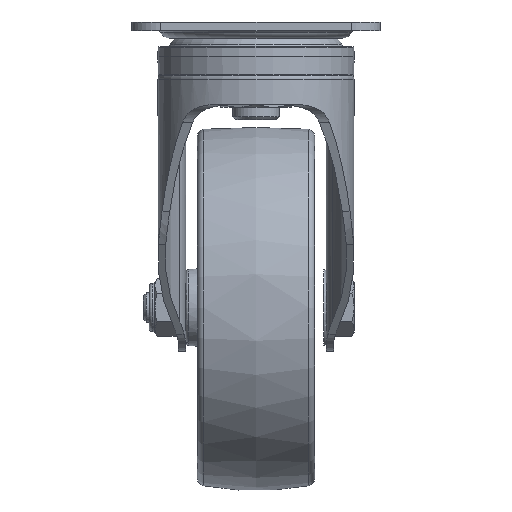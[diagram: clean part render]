
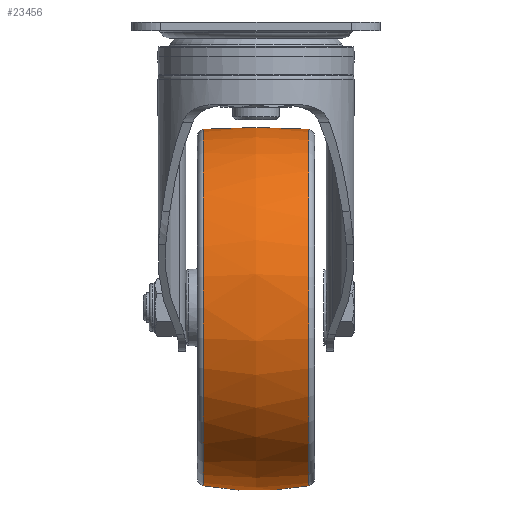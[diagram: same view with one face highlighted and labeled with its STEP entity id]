
A CAD part, left-side view. The second image highlights one B-rep face of the part: STEP entity #23456.
In plain terms, the highlighted free-form (B-spline) face has degree [2, 2] with [3, 9] control points.
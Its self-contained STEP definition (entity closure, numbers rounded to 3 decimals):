
#15=(
BOUNDED_SURFACE()
B_SPLINE_SURFACE(2,2,((#35715,#35716,#35717,#35718,#35719,#35720,#35721,
#35722,#35723),(#35724,#35725,#35726,#35727,#35728,#35729,#35730,#35731,
#35732),(#35733,#35734,#35735,#35736,#35737,#35738,#35739,#35740,#35741)),
 .UNSPECIFIED.,.F.,.T.,.F.)
B_SPLINE_SURFACE_WITH_KNOTS((3,3),(3,2,2,2,3),(-0.18,0.18),
(-3.142,-1.571,0.,1.571,3.142),
 .UNSPECIFIED.)
GEOMETRIC_REPRESENTATION_ITEM()
RATIONAL_B_SPLINE_SURFACE(((1.,0.707,1.,0.707,1.,
0.707,1.,0.707,1.),(0.984,0.696,
0.984,0.696,0.984,0.696,
0.984,0.696,0.984),(1.,0.707,
1.,0.707,1.,0.707,1.,0.707,1.)))
REPRESENTATION_ITEM('')
SURFACE()
);
#7255=FACE_OUTER_BOUND('',#8628,.T.);
#8628=EDGE_LOOP('',(#18817,#18818,#18819,#18820));
#9641=CIRCLE('',#24793,60.876);
#9643=CIRCLE('',#24795,60.876);
#9644=CIRCLE('',#24796,100.);
#11055=VERTEX_POINT('',#35712);
#11056=VERTEX_POINT('',#35742);
#13905=EDGE_CURVE('',#11055,#11055,#9641,.T.);
#13907=EDGE_CURVE('',#11056,#11056,#9643,.T.);
#13908=EDGE_CURVE('',#11056,#11055,#9644,.T.);
#18817=ORIENTED_EDGE('',*,*,#13907,.F.);
#18818=ORIENTED_EDGE('',*,*,#13908,.T.);
#18819=ORIENTED_EDGE('',*,*,#13905,.T.);
#18820=ORIENTED_EDGE('',*,*,#13908,.F.);
#23456=ADVANCED_FACE('',(#7255),#15,.F.);
#24793=AXIS2_PLACEMENT_3D('',#35713,#27634,#27635);
#24795=AXIS2_PLACEMENT_3D('',#35743,#27638,#27639);
#24796=AXIS2_PLACEMENT_3D('',#35744,#27640,#27641);
#27634=DIRECTION('center_axis',(0.,-1.,0.));
#27635=DIRECTION('ref_axis',(0.,0.,
1.));
#27638=DIRECTION('center_axis',(0.,-1.,0.));
#27639=DIRECTION('ref_axis',(0.,0.,
1.));
#27640=DIRECTION('center_axis',(1.,0.,0.));
#27641=DIRECTION('ref_axis',(0.,0.,
-1.));
#35712=CARTESIAN_POINT('',(32.,17.949,-157.176));
#35713=CARTESIAN_POINT('Origin',(32.,17.949,-96.3));
#35715=CARTESIAN_POINT('Ctrl Pts',(32.,17.949,-157.176));
#35716=CARTESIAN_POINT('Ctrl Pts',(92.876,17.949,-157.176));
#35717=CARTESIAN_POINT('Ctrl Pts',(92.876,17.949,-96.3));
#35718=CARTESIAN_POINT('Ctrl Pts',(92.876,17.949,-35.424));
#35719=CARTESIAN_POINT('Ctrl Pts',(32.,17.949,-35.424));
#35720=CARTESIAN_POINT('Ctrl Pts',(-28.876,17.949,-35.424));
#35721=CARTESIAN_POINT('Ctrl Pts',(-28.876,17.949,-96.3));
#35722=CARTESIAN_POINT('Ctrl Pts',(-28.876,17.949,-157.176));
#35723=CARTESIAN_POINT('Ctrl Pts',(32.,17.949,-157.176));
#35724=CARTESIAN_POINT('Ctrl Pts',(32.,0.,
-160.451));
#35725=CARTESIAN_POINT('Ctrl Pts',(96.151,0.,
-160.451));
#35726=CARTESIAN_POINT('Ctrl Pts',(96.151,0.,
-96.3));
#35727=CARTESIAN_POINT('Ctrl Pts',(96.151,0.,
-32.149));
#35728=CARTESIAN_POINT('Ctrl Pts',(32.,0.,
-32.149));
#35729=CARTESIAN_POINT('Ctrl Pts',(-32.151,0.,
-32.149));
#35730=CARTESIAN_POINT('Ctrl Pts',(-32.151,0.,
-96.3));
#35731=CARTESIAN_POINT('Ctrl Pts',(-32.151,0.,
-160.451));
#35732=CARTESIAN_POINT('Ctrl Pts',(32.,0.,
-160.451));
#35733=CARTESIAN_POINT('Ctrl Pts',(32.,-17.949,-157.176));
#35734=CARTESIAN_POINT('Ctrl Pts',(92.876,-17.949,-157.176));
#35735=CARTESIAN_POINT('Ctrl Pts',(92.876,-17.949,-96.3));
#35736=CARTESIAN_POINT('Ctrl Pts',(92.876,-17.949,-35.424));
#35737=CARTESIAN_POINT('Ctrl Pts',(32.,-17.949,-35.424));
#35738=CARTESIAN_POINT('Ctrl Pts',(-28.876,-17.949,
-35.424));
#35739=CARTESIAN_POINT('Ctrl Pts',(-28.876,-17.949,
-96.3));
#35740=CARTESIAN_POINT('Ctrl Pts',(-28.876,-17.949,-157.176));
#35741=CARTESIAN_POINT('Ctrl Pts',(32.,-17.949,-157.176));
#35742=CARTESIAN_POINT('',(32.,-17.949,-157.176));
#35743=CARTESIAN_POINT('Origin',(32.,-17.949,-96.3));
#35744=CARTESIAN_POINT('Origin',(32.,0.,-58.8));
